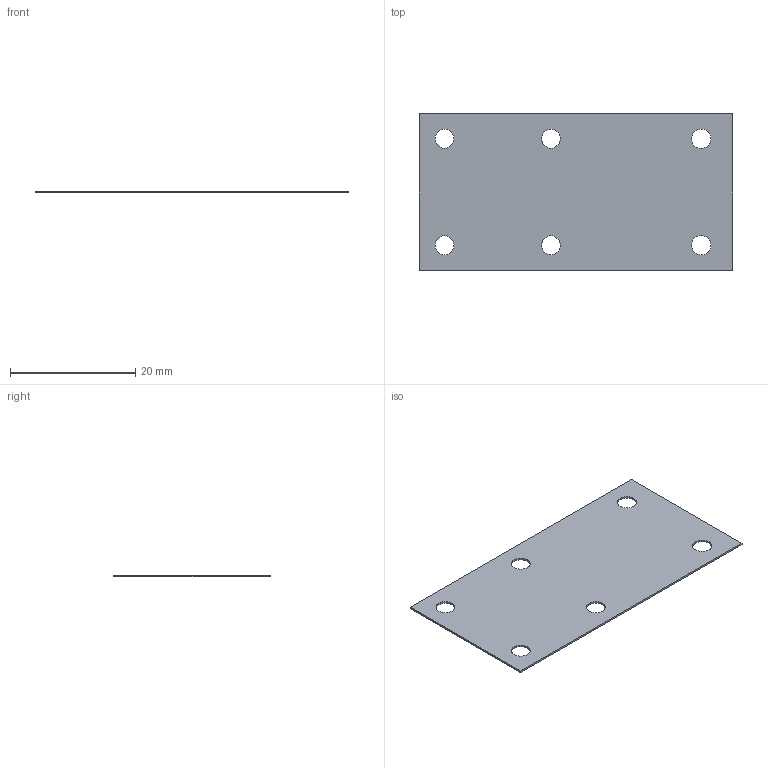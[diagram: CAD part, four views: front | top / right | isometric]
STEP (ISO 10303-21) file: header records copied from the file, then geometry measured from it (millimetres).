
FILE_DESCRIPTION (( 'STEP AP203' ), '1' );
FILE_NAME ('flat-spring.STEP', '2024-07-01T06:58:45', ( '' ), ( '' ), 'SwSTEP 2.0', 'SolidWorks 2021', '' );
FILE_SCHEMA (( 'CONFIG_CONTROL_DESIGN' ));
Length unit declared in the file: millimetre
Products named in the file (1): flat-spring
Bounding box: 50 x 25 x 0.3 mm (x, y, z)
Volume: 362 mm3; surface area: 2475.4 mm2
Topology: 1 solids, 1 shells, 18 faces, 48 edges, 32 vertices
Faces by surface type: cylinder 12, plane 6
Entity records: 677 total; most frequent: DIRECTION 110, CARTESIAN_POINT 99, ORIENTED_EDGE 96, EDGE_CURVE 48, AXIS2_PLACEMENT_3D 43, VERTEX_POINT 32, EDGE_LOOP 30, LINE 24
